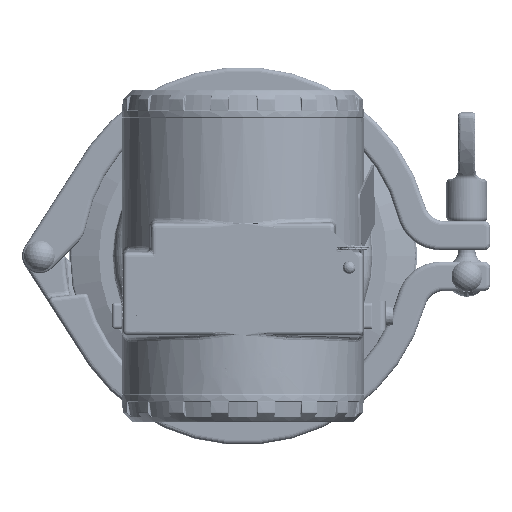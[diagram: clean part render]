
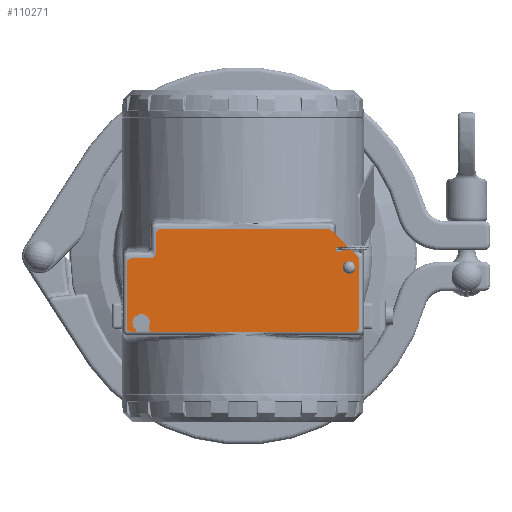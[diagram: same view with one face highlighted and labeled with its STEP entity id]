
A CAD part, left-side view. The second image highlights one B-rep face of the part: STEP entity #110271.
In plain terms, the highlighted planar face has unit normal (-1, 0, 0) as drawn and (0, 0, 1) by its records, which use the part's own axes.
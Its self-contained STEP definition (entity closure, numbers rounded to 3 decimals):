
#5221=FACE_BOUND('',#25287,.T.);
#5222=FACE_BOUND('',#25288,.T.);
#11160=CIRCLE('',#122207,2.);
#11162=CIRCLE('',#122211,1.);
#11163=CIRCLE('',#122212,1.);
#11165=CIRCLE('',#122215,1.35);
#11166=CIRCLE('',#122216,1.35);
#11167=CIRCLE('',#122218,1.);
#11177=CIRCLE('',#122231,1.);
#11178=CIRCLE('',#122234,2.);
#11179=CIRCLE('',#122237,2.);
#11180=CIRCLE('',#122240,2.);
#11181=CIRCLE('',#122243,2.);
#11182=CIRCLE('',#122246,2.);
#11183=CIRCLE('',#122249,2.);
#11184=CIRCLE('',#122252,2.1);
#18431=FACE_OUTER_BOUND('',#25286,.T.);
#25286=EDGE_LOOP('',(#90473,#90474,#90475,#90476,#90477,#90478,#90479,#90480,
#90481,#90482,#90483,#90484,#90485,#90486,#90487,#90488,#90489,#90490,#90491,
#90492));
#25287=EDGE_LOOP('',(#90493,#90494));
#25288=EDGE_LOOP('',(#90495,#90496));
#32476=LINE('',#225663,#40816);
#32483=LINE('',#225694,#40823);
#32495=LINE('',#225735,#40835);
#32499=LINE('',#225745,#40839);
#32502=LINE('',#225753,#40842);
#32504=LINE('',#225759,#40844);
#32507=LINE('',#225767,#40847);
#32509=LINE('',#225773,#40849);
#32511=LINE('',#225780,#40851);
#32513=LINE('',#225785,#40853);
#40816=VECTOR('',#145948,10.);
#40823=VECTOR('',#145979,10.);
#40835=VECTOR('',#146015,10.);
#40839=VECTOR('',#146025,10.);
#40842=VECTOR('',#146034,10.);
#40844=VECTOR('',#146042,10.);
#40847=VECTOR('',#146051,10.);
#40849=VECTOR('',#146059,10.);
#40851=VECTOR('',#146067,10.);
#40853=VECTOR('',#146075,10.);
#50969=VERTEX_POINT('',#225653);
#50970=VERTEX_POINT('',#225655);
#50972=VERTEX_POINT('',#225661);
#50974=VERTEX_POINT('',#225667);
#50975=VERTEX_POINT('',#225669);
#50977=VERTEX_POINT('',#225675);
#50978=VERTEX_POINT('',#225677);
#50979=VERTEX_POINT('',#225681);
#50980=VERTEX_POINT('',#225682);
#50984=VERTEX_POINT('',#225692);
#50999=VERTEX_POINT('',#225727);
#51000=VERTEX_POINT('',#225728);
#51001=VERTEX_POINT('',#225733);
#51002=VERTEX_POINT('',#225737);
#51003=VERTEX_POINT('',#225738);
#51004=VERTEX_POINT('',#225743);
#51005=VERTEX_POINT('',#225747);
#51006=VERTEX_POINT('',#225751);
#51007=VERTEX_POINT('',#225755);
#51008=VERTEX_POINT('',#225761);
#51009=VERTEX_POINT('',#225765);
#51010=VERTEX_POINT('',#225769);
#51011=VERTEX_POINT('',#225775);
#51012=VERTEX_POINT('',#225779);
#64646=EDGE_CURVE('',#50969,#50970,#11160,.T.);
#64650=EDGE_CURVE('',#50972,#50969,#32476,.T.);
#64653=EDGE_CURVE('',#50975,#50974,#11162,.T.);
#64654=EDGE_CURVE('',#50974,#50975,#11163,.T.);
#64657=EDGE_CURVE('',#50978,#50977,#11165,.T.);
#64658=EDGE_CURVE('',#50977,#50978,#11166,.T.);
#64659=EDGE_CURVE('',#50979,#50980,#11167,.T.);
#64665=EDGE_CURVE('',#50984,#50979,#32483,.T.);
#64682=EDGE_CURVE('',#50999,#51000,#11177,.T.);
#64686=EDGE_CURVE('',#51001,#50999,#32495,.T.);
#64687=EDGE_CURVE('',#51002,#51003,#11178,.T.);
#64691=EDGE_CURVE('',#51004,#51002,#32499,.T.);
#64692=EDGE_CURVE('',#51005,#51004,#11179,.T.);
#64695=EDGE_CURVE('',#51006,#51005,#32502,.T.);
#64696=EDGE_CURVE('',#51007,#51006,#11180,.T.);
#64698=EDGE_CURVE('',#50970,#51007,#32504,.T.);
#64699=EDGE_CURVE('',#51008,#50972,#11181,.T.);
#64702=EDGE_CURVE('',#51009,#51008,#32507,.T.);
#64703=EDGE_CURVE('',#51010,#51009,#11182,.T.);
#64705=EDGE_CURVE('',#50980,#51010,#32509,.T.);
#64706=EDGE_CURVE('',#51011,#51001,#11183,.T.);
#64708=EDGE_CURVE('',#51000,#51012,#32511,.T.);
#64710=EDGE_CURVE('',#51012,#50984,#11184,.T.);
#64711=EDGE_CURVE('',#51003,#51011,#32513,.T.);
#90473=ORIENTED_EDGE('',*,*,#64659,.F.);
#90474=ORIENTED_EDGE('',*,*,#64665,.F.);
#90475=ORIENTED_EDGE('',*,*,#64710,.F.);
#90476=ORIENTED_EDGE('',*,*,#64708,.F.);
#90477=ORIENTED_EDGE('',*,*,#64682,.F.);
#90478=ORIENTED_EDGE('',*,*,#64686,.F.);
#90479=ORIENTED_EDGE('',*,*,#64706,.F.);
#90480=ORIENTED_EDGE('',*,*,#64711,.F.);
#90481=ORIENTED_EDGE('',*,*,#64687,.F.);
#90482=ORIENTED_EDGE('',*,*,#64691,.F.);
#90483=ORIENTED_EDGE('',*,*,#64692,.F.);
#90484=ORIENTED_EDGE('',*,*,#64695,.F.);
#90485=ORIENTED_EDGE('',*,*,#64696,.F.);
#90486=ORIENTED_EDGE('',*,*,#64698,.F.);
#90487=ORIENTED_EDGE('',*,*,#64646,.F.);
#90488=ORIENTED_EDGE('',*,*,#64650,.F.);
#90489=ORIENTED_EDGE('',*,*,#64699,.F.);
#90490=ORIENTED_EDGE('',*,*,#64702,.F.);
#90491=ORIENTED_EDGE('',*,*,#64703,.F.);
#90492=ORIENTED_EDGE('',*,*,#64705,.F.);
#90493=ORIENTED_EDGE('',*,*,#64653,.T.);
#90494=ORIENTED_EDGE('',*,*,#64654,.T.);
#90495=ORIENTED_EDGE('',*,*,#64657,.T.);
#90496=ORIENTED_EDGE('',*,*,#64658,.T.);
#105165=PLANE('',#122254);
#110271=ADVANCED_FACE('',(#18431,#5221,#5222),#105165,.T.);
#122207=AXIS2_PLACEMENT_3D('',#225656,#145941,#145942);
#122211=AXIS2_PLACEMENT_3D('',#225670,#145954,#145955);
#122212=AXIS2_PLACEMENT_3D('',#225671,#145956,#145957);
#122215=AXIS2_PLACEMENT_3D('',#225678,#145963,#145964);
#122216=AXIS2_PLACEMENT_3D('',#225679,#145965,#145966);
#122218=AXIS2_PLACEMENT_3D('',#225683,#145969,#145970);
#122231=AXIS2_PLACEMENT_3D('',#225729,#146008,#146009);
#122234=AXIS2_PLACEMENT_3D('',#225739,#146018,#146019);
#122237=AXIS2_PLACEMENT_3D('',#225748,#146028,#146029);
#122240=AXIS2_PLACEMENT_3D('',#225756,#146037,#146038);
#122243=AXIS2_PLACEMENT_3D('',#225762,#146045,#146046);
#122246=AXIS2_PLACEMENT_3D('',#225770,#146054,#146055);
#122249=AXIS2_PLACEMENT_3D('',#225776,#146062,#146063);
#122252=AXIS2_PLACEMENT_3D('',#225783,#146071,#146072);
#122254=AXIS2_PLACEMENT_3D('',#225786,#146076,#146077);
#145941=DIRECTION('center_axis',(0.,0.,1.));
#145942=DIRECTION('ref_axis',(-0.707,0.707,0.));
#145948=DIRECTION('',(-1.,0.,0.));
#145954=DIRECTION('center_axis',(0.,0.,-1.));
#145955=DIRECTION('ref_axis',(1.,0.,0.));
#145956=DIRECTION('center_axis',(0.,0.,-1.));
#145957=DIRECTION('ref_axis',(1.,0.,0.));
#145963=DIRECTION('center_axis',(0.,0.,-1.));
#145964=DIRECTION('ref_axis',(1.,0.,0.));
#145965=DIRECTION('center_axis',(0.,0.,-1.));
#145966=DIRECTION('ref_axis',(1.,0.,0.));
#145969=DIRECTION('center_axis',(0.,0.,-1.));
#145970=DIRECTION('ref_axis',(-0.793,0.609,0.));
#145979=DIRECTION('',(-0.259,0.966,0.));
#146008=DIRECTION('center_axis',(0.,0.,-1.));
#146009=DIRECTION('ref_axis',(0.609,0.793,0.));
#146015=DIRECTION('',(1.,0.,0.));
#146018=DIRECTION('center_axis',(0.,0.,-1.));
#146019=DIRECTION('ref_axis',(-0.924,-0.383,0.));
#146025=DIRECTION('',(-0.707,0.707,0.));
#146028=DIRECTION('center_axis',(0.,0.,-1.));
#146029=DIRECTION('ref_axis',(-0.383,-0.924,0.));
#146034=DIRECTION('',(-1.,0.,0.));
#146037=DIRECTION('center_axis',(0.,0.,-1.));
#146038=DIRECTION('ref_axis',(0.707,-0.707,0.));
#146042=DIRECTION('',(0.,-1.,0.));
#146045=DIRECTION('center_axis',(0.,0.,-1.));
#146046=DIRECTION('ref_axis',(0.707,-0.707,0.));
#146051=DIRECTION('',(0.,-1.,0.));
#146054=DIRECTION('center_axis',(0.,0.,-1.));
#146055=DIRECTION('ref_axis',(0.707,0.707,0.));
#146059=DIRECTION('',(1.,0.,0.));
#146062=DIRECTION('center_axis',(0.,0.,-1.));
#146063=DIRECTION('ref_axis',(-0.707,0.707,0.));
#146067=DIRECTION('',(0.259,-0.966,0.));
#146071=DIRECTION('center_axis',(0.,0.,1.));
#146072=DIRECTION('ref_axis',(-0.966,-0.259,0.));
#146075=DIRECTION('',(0.,1.,0.));
#146076=DIRECTION('center_axis',(0.,0.,1.));
#146077=DIRECTION('ref_axis',(1.,0.,0.));
#225653=CARTESIAN_POINT('',(32.,-7.75,0.7));
#225655=CARTESIAN_POINT('',(30.,-9.75,0.7));
#225656=CARTESIAN_POINT('Origin',(32.,-9.75,0.7));
#225661=CARTESIAN_POINT('',(38.,-7.75,0.7));
#225663=CARTESIAN_POINT('',(40.,-7.75,0.7));
#225667=CARTESIAN_POINT('',(-34.,-10.75,0.7));
#225669=CARTESIAN_POINT('',(-32.,-10.75,0.7));
#225670=CARTESIAN_POINT('Origin',(-33.,-10.75,0.7));
#225671=CARTESIAN_POINT('Origin',(-33.,-10.75,0.7));
#225675=CARTESIAN_POINT('',(-37.85,-4.5,0.7));
#225677=CARTESIAN_POINT('',(-35.15,-4.5,0.7));
#225678=CARTESIAN_POINT('Origin',(-36.5,-4.5,0.7));
#225679=CARTESIAN_POINT('Origin',(-36.5,-4.5,0.7));
#225681=CARTESIAN_POINT('',(36.641,16.491,0.7));
#225682=CARTESIAN_POINT('',(37.606,17.75,0.7));
#225683=CARTESIAN_POINT('Origin',(37.606,16.75,0.7));
#225692=CARTESIAN_POINT('',(37.028,15.044,0.7));
#225694=CARTESIAN_POINT('',(37.028,15.044,0.7));
#225727=CARTESIAN_POINT('',(31.188,17.75,0.7));
#225728=CARTESIAN_POINT('',(32.154,17.009,0.7));
#225729=CARTESIAN_POINT('Origin',(31.188,16.75,0.7));
#225733=CARTESIAN_POINT('',(-38.,17.75,0.7));
#225735=CARTESIAN_POINT('',(-40.,17.75,0.7));
#225737=CARTESIAN_POINT('',(-39.414,-8.336,0.7));
#225738=CARTESIAN_POINT('',(-40.,-6.922,0.7));
#225739=CARTESIAN_POINT('Origin',(-38.,-6.922,0.7));
#225743=CARTESIAN_POINT('',(-30.586,-17.164,0.7));
#225745=CARTESIAN_POINT('',(-30.,-17.75,0.7));
#225747=CARTESIAN_POINT('',(-29.172,-17.75,0.7));
#225748=CARTESIAN_POINT('Origin',(-29.172,-15.75,0.7));
#225751=CARTESIAN_POINT('',(28.,-17.75,0.7));
#225753=CARTESIAN_POINT('',(30.,-17.75,0.7));
#225755=CARTESIAN_POINT('',(30.,-15.75,0.7));
#225756=CARTESIAN_POINT('Origin',(28.,-15.75,0.7));
#225759=CARTESIAN_POINT('',(30.,-7.75,0.7));
#225761=CARTESIAN_POINT('',(40.,-5.75,0.7));
#225762=CARTESIAN_POINT('Origin',(38.,-5.75,0.7));
#225765=CARTESIAN_POINT('',(40.,15.75,0.7));
#225767=CARTESIAN_POINT('',(40.,17.75,0.7));
#225769=CARTESIAN_POINT('',(38.,17.75,0.7));
#225770=CARTESIAN_POINT('Origin',(38.,15.75,0.7));
#225773=CARTESIAN_POINT('',(36.303,17.75,0.7));
#225775=CARTESIAN_POINT('',(-40.,15.75,0.7));
#225776=CARTESIAN_POINT('Origin',(-38.,15.75,0.7));
#225779=CARTESIAN_POINT('',(32.972,13.956,0.7));
#225780=CARTESIAN_POINT('',(31.955,17.75,0.7));
#225783=CARTESIAN_POINT('Origin',(35.,14.5,0.7));
#225785=CARTESIAN_POINT('',(-40.,-7.75,0.7));
#225786=CARTESIAN_POINT('Origin',(2.007,1.468,0.7));
